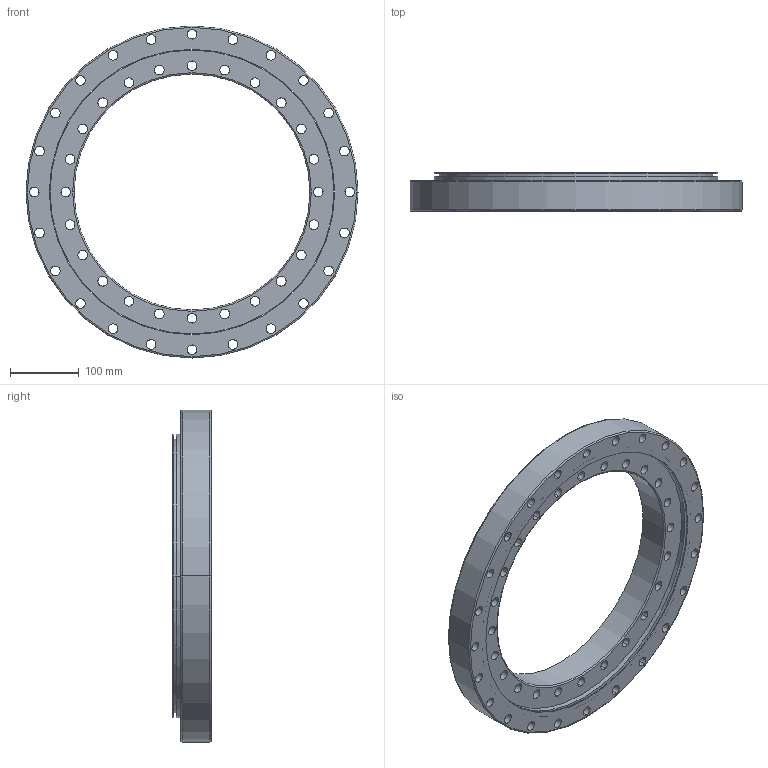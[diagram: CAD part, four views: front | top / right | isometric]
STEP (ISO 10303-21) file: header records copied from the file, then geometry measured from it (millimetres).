
FILE_DESCRIPTION((''),'2;1');
FILE_NAME('XSU140414','2015-10-13T',('Administrator'),(''),'PRO/ENGINEER BY PARAMETRIC TECHNOLOGY CORPORATION, 2010180','PRO/ENGINEER BY PARAMETRIC TECHNOLOGY CORPORATION, 2010180','');
FILE_SCHEMA(('AUTOMOTIVE_DESIGN_CC2 { 1 2 10303 214 -1 1 5 2 }'));
Length unit declared in the file: millimetre
Products named in the file (1): XSU140414
Bounding box: 484 x 56 x 484 mm (x, y, z)
Volume: 3316503.1 mm3; surface area: 547841.5 mm2
Topology: 2 solids, 2 shells, 138 faces, 372 edges, 242 vertices
Faces by surface type: cylinder 116, plane 8, cone 8, torus 6
Entity records: 4682 total; most frequent: DIRECTION 896, CARTESIAN_POINT 752, ORIENTED_EDGE 744, AXIS2_PLACEMENT_3D 386, EDGE_CURVE 372, CIRCLE 248, VERTEX_POINT 242, EDGE_LOOP 242
